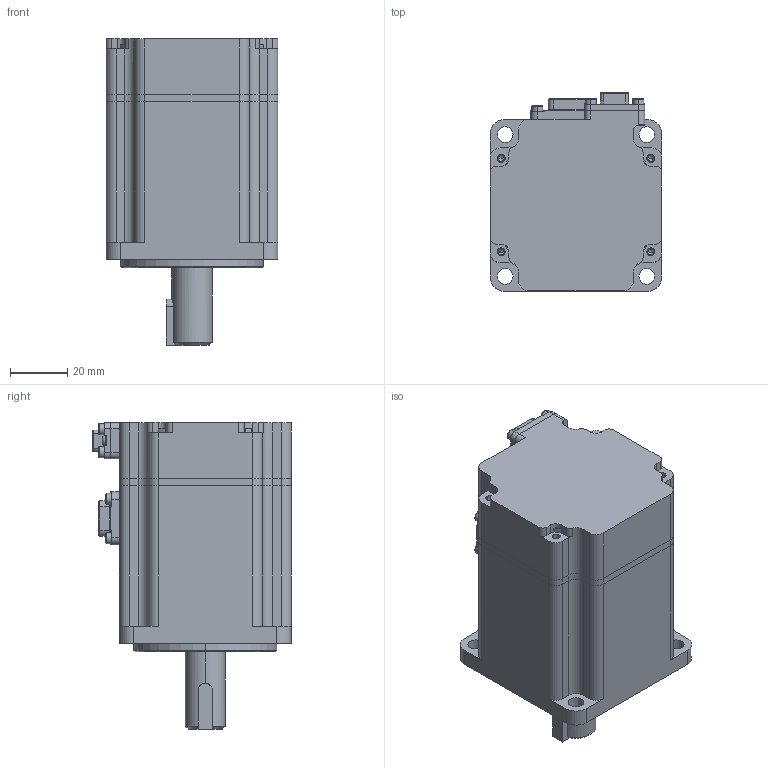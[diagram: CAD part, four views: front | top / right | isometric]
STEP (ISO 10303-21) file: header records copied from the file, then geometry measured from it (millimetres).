
FILE_DESCRIPTION (( 'STEP AP214' ), '1' );
FILE_NAME ('軞蚾.STEP', '2022-12-29T09:08:01', ( '' ), ( '' ), 'SwSTEP 2.0', 'SolidWorks 2022', '' );
FILE_SCHEMA (( 'AUTOMOTIVE_DESIGN' ));
Length unit declared in the file: millimetre
Products named in the file (8): sc-mc7p-a82g-00-信号底座; 总装; 后端盖; 10109020756 机壳-60L51(侧边开孔)-毛塑-V1.0; hexagon socket head cap screws gb_GB_FASTENER_SCREWS_HSHCS M2X6-N; 编码器罩-锐鹰分体光编; 动力底座sc-mc6p-ae2g; 键
Assembly tree (14 placements, depth 2):
  总装
    10109020756 机壳-60L51(侧边开孔)-毛塑-V1.0
    后端盖
    编码器罩-锐鹰分体光编
    键
    sc-mc7p-a82g-00-信号底座
    动力底座sc-mc6p-ae2g
    hexagon socket head cap screws gb_GB_FASTENER_SCREWS_HSHCS M2X6-N  x8
Bounding box: 60 x 69.3 x 107 mm (x, y, z)
Volume: 274564.2 mm3; surface area: 50181 mm2
Topology: 16 solids, 16 shells, 1781 faces, 4673 edges, 2975 vertices
Faces by surface type: plane 1013, cylinder 580, cone 92, torus 74, bspline 22
Entity records: 57788 total; most frequent: CARTESIAN_POINT 15831, ORIENTED_EDGE 8482, DIRECTION 8153, EDGE_CURVE 4241, VERTEX_POINT 2744, AXIS2_PLACEMENT_3D 2739, VECTOR 2675, LINE 2675
